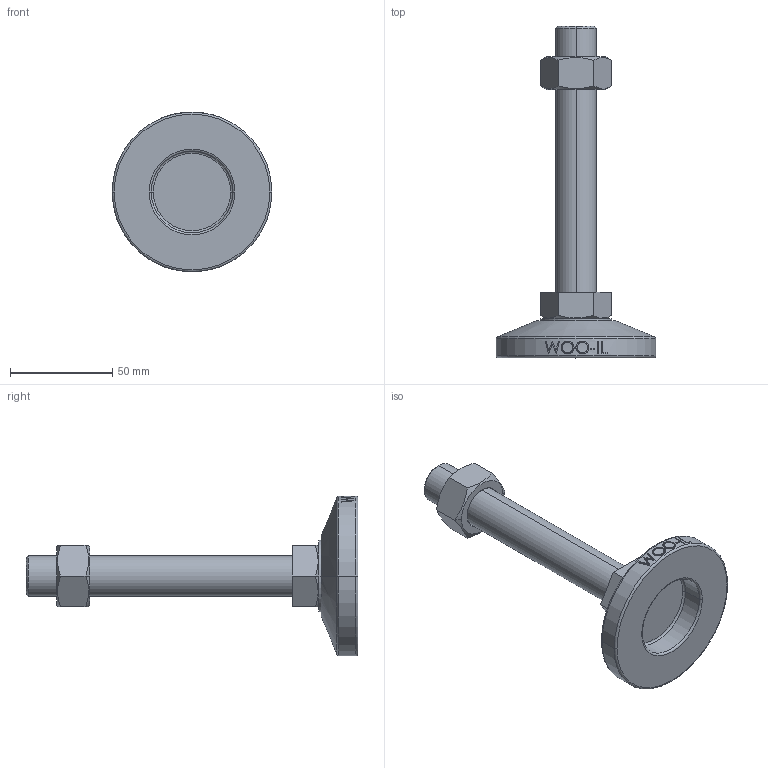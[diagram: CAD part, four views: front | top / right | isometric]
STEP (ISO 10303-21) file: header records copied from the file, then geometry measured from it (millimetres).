
FILE_DESCRIPTION (( 'STEP AP214' ), '1' );
FILE_NAME ('MFT78-M20-130.step', '2021-03-29T04:44:23', ( '' ), ( '' ), 'SwSTEP 2.0', 'SolidWorks 2019', '' );
FILE_SCHEMA (( 'AUTOMOTIVE_DESIGN' ));
Length unit declared in the file: millimetre
Products named in the file (2): MFT78-M20-130
Bounding box: 78 x 162 x 78 mm (x, y, z)
Volume: 114817.2 mm3; surface area: 28021.5 mm2
Topology: 3 solids, 3 shells, 106 faces, 243 edges, 154 vertices
Faces by surface type: plane 48, cylinder 18, bspline 16, cone 14, torus 10
Entity records: 4518 total; most frequent: CARTESIAN_POINT 2175, ORIENTED_EDGE 486, DIRECTION 439, EDGE_CURVE 243, AXIS2_PLACEMENT_3D 170, VERTEX_POINT 154, EDGE_LOOP 119, ADVANCED_FACE 106
